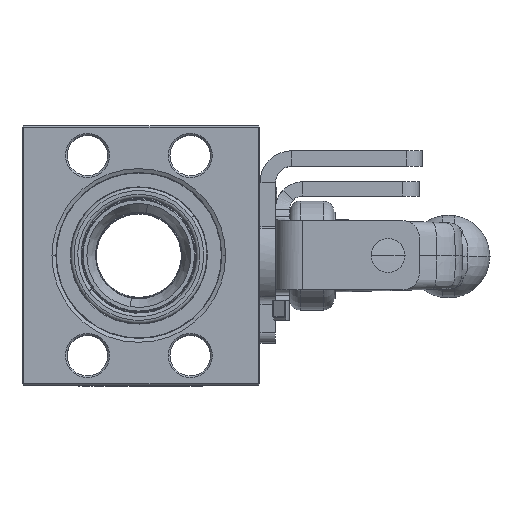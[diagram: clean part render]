
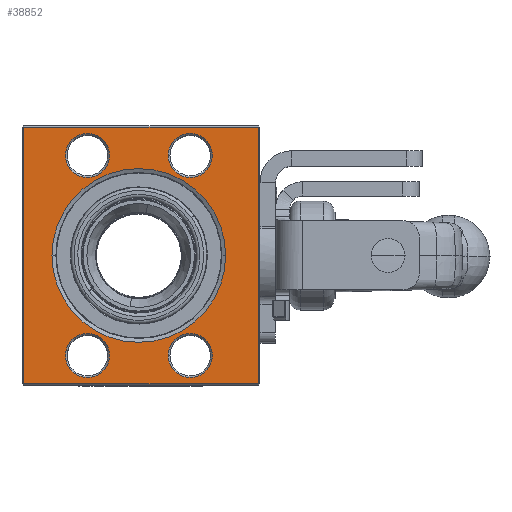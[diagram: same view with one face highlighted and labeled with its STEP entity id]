
A CAD part, top view. The second image highlights one B-rep face of the part: STEP entity #38852.
In plain terms, the highlighted planar face has unit normal (0, 0, 1).
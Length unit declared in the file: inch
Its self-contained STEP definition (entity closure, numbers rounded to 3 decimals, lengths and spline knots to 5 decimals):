
#669 = EDGE_CURVE ( 'NONE', #8229, #56967, #32773, .T. ) ;
#1232 = VERTEX_POINT ( 'NONE', #37631 ) ;
#1680 = CIRCLE ( 'NONE', #2654, 0.2545 ) ;
#1743 = EDGE_LOOP ( 'NONE', ( #22068, #56466 ) ) ;
#1781 = DIRECTION ( 'NONE',  ( 0., 0., -1. ) ) ;
#2160 = CARTESIAN_POINT ( 'NONE',  ( 0.07906, 1.44669, 3.4426 ) ) ;
#2654 = AXIS2_PLACEMENT_3D ( 'NONE', #20166, #15059, #33441 ) ;
#2889 = CARTESIAN_POINT ( 'NONE',  ( 0.48906, 2.60269, 3.4426 ) ) ;
#3225 = VERTEX_POINT ( 'NONE', #13688 ) ;
#3719 = VERTEX_POINT ( 'NONE', #37314 ) ;
#3782 = DIRECTION ( 'NONE',  ( 0., 0., -1. ) ) ;
#3791 = EDGE_CURVE ( 'NONE', #24090, #54291, #6082, .T. ) ;
#4087 = DIRECTION ( 'NONE',  ( -1., 0., 0. ) ) ;
#4178 = DIRECTION ( 'NONE',  ( -1., 0., 0. ) ) ;
#5705 = CARTESIAN_POINT ( 'NONE',  ( 0.74356, 2.60269, 3.4426 ) ) ;
#6082 = CIRCLE ( 'NONE', #39712, 0.2545 ) ;
#6396 = ORIENTED_EDGE ( 'NONE', *, *, #44175, .T. ) ;
#7078 = DIRECTION ( 'NONE',  ( 0., 0., -1. ) ) ;
#7106 = AXIS2_PLACEMENT_3D ( 'NONE', #2889, #3782, #21231 ) ;
#7937 = EDGE_CURVE ( 'NONE', #58377, #43856, #47119, .T. ) ;
#7997 = DIRECTION ( 'NONE',  ( 0., -1., 0. ) ) ;
#8229 = VERTEX_POINT ( 'NONE', #10184 ) ;
#8898 = DIRECTION ( 'NONE',  ( -1., 0., 0. ) ) ;
#10102 = CARTESIAN_POINT ( 'NONE',  ( 1.93156, 0.29069, 3.4426 ) ) ;
#10168 = VERTEX_POINT ( 'NONE', #5705 ) ;
#10184 = CARTESIAN_POINT ( 'NONE',  ( 2.08706, 1.44669, 3.4426 ) ) ;
#10526 = CARTESIAN_POINT ( 'NONE',  ( 1.67706, 0.29069, 3.4426 ) ) ;
#10557 = DIRECTION ( 'NONE',  ( 0., 1., 0. ) ) ;
#10579 = VERTEX_POINT ( 'NONE', #50494 ) ;
#11584 = DIRECTION ( 'NONE',  ( 0., 0., -1. ) ) ;
#11998 = AXIS2_PLACEMENT_3D ( 'NONE', #52531, #7078, #48301 ) ;
#12366 = VERTEX_POINT ( 'NONE', #50385 ) ;
#13077 = CARTESIAN_POINT ( 'NONE',  ( -0.24694, -0.05331, 3.4426 ) ) ;
#13688 = CARTESIAN_POINT ( 'NONE',  ( 1.93156, 2.60269, 3.4426 ) ) ;
#13929 = EDGE_LOOP ( 'NONE', ( #32806, #15264 ) ) ;
#14033 = VECTOR ( 'NONE', #45482, 39.37008 ) ;
#14735 = DIRECTION ( 'NONE',  ( 0., 0., -1. ) ) ;
#14843 = EDGE_CURVE ( 'NONE', #10168, #29716, #56135, .T. ) ;
#15059 = DIRECTION ( 'NONE',  ( 0., 0., -1. ) ) ;
#15264 = ORIENTED_EDGE ( 'NONE', *, *, #51941, .T. ) ;
#15497 = FACE_BOUND ( 'NONE', #48937, .T. ) ;
#15641 = ORIENTED_EDGE ( 'NONE', *, *, #41769, .T. ) ;
#15989 = ORIENTED_EDGE ( 'NONE', *, *, #14843, .T. ) ;
#17191 = CARTESIAN_POINT ( 'NONE',  ( -0.26694, -0.03331, 3.4426 ) ) ;
#18358 = DIRECTION ( 'NONE',  ( -1., 0., 0. ) ) ;
#18500 = LINE ( 'NONE', #41382, #48794 ) ;
#18967 = CARTESIAN_POINT ( 'NONE',  ( 2.46306, -0.03331, 3.4426 ) ) ;
#19573 = LINE ( 'NONE', #56319, #20660 ) ;
#19718 = FACE_BOUND ( 'NONE', #50298, .T. ) ;
#20105 = DIRECTION ( 'NONE',  ( -1., 0., 0. ) ) ;
#20166 = CARTESIAN_POINT ( 'NONE',  ( 1.67706, 2.60269, 3.4426 ) ) ;
#20660 = VECTOR ( 'NONE', #10557, 39.37008 ) ;
#20801 = CIRCLE ( 'NONE', #35221, 1.004 ) ;
#21231 = DIRECTION ( 'NONE',  ( -1., 0., 0. ) ) ;
#21507 = CARTESIAN_POINT ( 'NONE',  ( 1.08306, 1.44669, 3.4426 ) ) ;
#21678 = CARTESIAN_POINT ( 'NONE',  ( 0.23456, 0.29069, 3.4426 ) ) ;
#22068 = ORIENTED_EDGE ( 'NONE', *, *, #3791, .T. ) ;
#22123 = LINE ( 'NONE', #13077, #41918 ) ;
#22154 = AXIS2_PLACEMENT_3D ( 'NONE', #21507, #11584, #35367 ) ;
#22521 = EDGE_LOOP ( 'NONE', ( #6396, #49448 ) ) ;
#23171 = CARTESIAN_POINT ( 'NONE',  ( 0.48906, 0.29069, 3.4426 ) ) ;
#24090 = VERTEX_POINT ( 'NONE', #48531 ) ;
#24444 = ORIENTED_EDGE ( 'NONE', *, *, #669, .T. ) ;
#24544 = PLANE ( 'NONE',  #11998 ) ;
#25952 = CARTESIAN_POINT ( 'NONE',  ( 1.42256, 0.29069, 3.4426 ) ) ;
#28339 = DIRECTION ( 'NONE',  ( 0., 0., -1. ) ) ;
#28765 = FACE_BOUND ( 'NONE', #1743, .T. ) ;
#28895 = DIRECTION ( 'NONE',  ( -1., 0., 0. ) ) ;
#29270 = VERTEX_POINT ( 'NONE', #18967 ) ;
#29716 = VERTEX_POINT ( 'NONE', #48675 ) ;
#31877 = EDGE_CURVE ( 'NONE', #54291, #24090, #57902, .T. ) ;
#32773 = CIRCLE ( 'NONE', #22154, 1.004 ) ;
#32806 = ORIENTED_EDGE ( 'NONE', *, *, #7937, .T. ) ;
#33423 = CIRCLE ( 'NONE', #38233, 0.2545 ) ;
#33441 = DIRECTION ( 'NONE',  ( -1., 0., 0. ) ) ;
#33679 = CARTESIAN_POINT ( 'NONE',  ( 1.67706, 2.60269, 3.4426 ) ) ;
#35221 = AXIS2_PLACEMENT_3D ( 'NONE', #55146, #28339, #46691 ) ;
#35367 = DIRECTION ( 'NONE',  ( -1., 0., 0. ) ) ;
#35728 = ORIENTED_EDGE ( 'NONE', *, *, #37922, .T. ) ;
#36091 = ORIENTED_EDGE ( 'NONE', *, *, #54702, .T. ) ;
#37084 = CIRCLE ( 'NONE', #50540, 0.2545 ) ;
#37216 = CIRCLE ( 'NONE', #59345, 0.2545 ) ;
#37314 = CARTESIAN_POINT ( 'NONE',  ( -0.24694, 2.92669, 3.4426 ) ) ;
#37613 = DIRECTION ( 'NONE',  ( 0., 0., -1. ) ) ;
#37631 = CARTESIAN_POINT ( 'NONE',  ( -0.24694, -0.03331, 3.4426 ) ) ;
#37922 = EDGE_CURVE ( 'NONE', #3719, #1232, #22123, .T. ) ;
#38233 = AXIS2_PLACEMENT_3D ( 'NONE', #33679, #1781, #20105 ) ;
#38688 = FACE_OUTER_BOUND ( 'NONE', #49990, .T. ) ;
#38852 = ADVANCED_FACE ( 'NONE', ( #19718, #28765, #48006, #15497, #56161, #38688 ), #24544, .F. ) ;
#39712 = AXIS2_PLACEMENT_3D ( 'NONE', #23171, #37613, #18358 ) ;
#40574 = CARTESIAN_POINT ( 'NONE',  ( 0.48906, 2.60269, 3.4426 ) ) ;
#40590 = DIRECTION ( 'NONE',  ( 0., 0., -1. ) ) ;
#40677 = EDGE_CURVE ( 'NONE', #1232, #29270, #40967, .T. ) ;
#40967 = LINE ( 'NONE', #17191, #14033 ) ;
#41382 = CARTESIAN_POINT ( 'NONE',  ( -0.26694, 2.92669, 3.4426 ) ) ;
#41567 = AXIS2_PLACEMENT_3D ( 'NONE', #54956, #46499, #8898 ) ;
#41769 = EDGE_CURVE ( 'NONE', #56967, #8229, #20801, .T. ) ;
#41918 = VECTOR ( 'NONE', #7997, 39.37008 ) ;
#43024 = ORIENTED_EDGE ( 'NONE', *, *, #59445, .T. ) ;
#43856 = VERTEX_POINT ( 'NONE', #25952 ) ;
#44175 = EDGE_CURVE ( 'NONE', #3225, #12366, #1680, .T. ) ;
#44374 = AXIS2_PLACEMENT_3D ( 'NONE', #54144, #40590, #4178 ) ;
#45181 = EDGE_CURVE ( 'NONE', #12366, #3225, #33423, .T. ) ;
#45482 = DIRECTION ( 'NONE',  ( 1., 0., 0. ) ) ;
#46272 = DIRECTION ( 'NONE',  ( -1., 0., 0. ) ) ;
#46499 = DIRECTION ( 'NONE',  ( 0., 0., -1. ) ) ;
#46691 = DIRECTION ( 'NONE',  ( -1., 0., 0. ) ) ;
#47119 = CIRCLE ( 'NONE', #44374, 0.2545 ) ;
#48006 = FACE_BOUND ( 'NONE', #22521, .T. ) ;
#48301 = DIRECTION ( 'NONE',  ( -1., 0., 0. ) ) ;
#48531 = CARTESIAN_POINT ( 'NONE',  ( 0.74356, 0.29069, 3.4426 ) ) ;
#48675 = CARTESIAN_POINT ( 'NONE',  ( 0.23456, 2.60269, 3.4426 ) ) ;
#48794 = VECTOR ( 'NONE', #4087, 39.37008 ) ;
#48937 = EDGE_LOOP ( 'NONE', ( #15989, #36091 ) ) ;
#49448 = ORIENTED_EDGE ( 'NONE', *, *, #45181, .T. ) ;
#49990 = EDGE_LOOP ( 'NONE', ( #35728, #54439, #43024, #51401 ) ) ;
#50298 = EDGE_LOOP ( 'NONE', ( #24444, #15641 ) ) ;
#50385 = CARTESIAN_POINT ( 'NONE',  ( 1.42256, 2.60269, 3.4426 ) ) ;
#50494 = CARTESIAN_POINT ( 'NONE',  ( 2.46306, 2.92669, 3.4426 ) ) ;
#50540 = AXIS2_PLACEMENT_3D ( 'NONE', #10526, #14735, #28895 ) ;
#51401 = ORIENTED_EDGE ( 'NONE', *, *, #55038, .T. ) ;
#51941 = EDGE_CURVE ( 'NONE', #43856, #58377, #37084, .T. ) ;
#52531 = CARTESIAN_POINT ( 'NONE',  ( -0.26694, -0.05331, 3.4426 ) ) ;
#54144 = CARTESIAN_POINT ( 'NONE',  ( 1.67706, 0.29069, 3.4426 ) ) ;
#54291 = VERTEX_POINT ( 'NONE', #21678 ) ;
#54439 = ORIENTED_EDGE ( 'NONE', *, *, #40677, .T. ) ;
#54702 = EDGE_CURVE ( 'NONE', #29716, #10168, #37216, .T. ) ;
#54956 = CARTESIAN_POINT ( 'NONE',  ( 0.48906, 0.29069, 3.4426 ) ) ;
#55038 = EDGE_CURVE ( 'NONE', #10579, #3719, #18500, .T. ) ;
#55146 = CARTESIAN_POINT ( 'NONE',  ( 1.08306, 1.44669, 3.4426 ) ) ;
#56135 = CIRCLE ( 'NONE', #7106, 0.2545 ) ;
#56161 = FACE_BOUND ( 'NONE', #13929, .T. ) ;
#56319 = CARTESIAN_POINT ( 'NONE',  ( 2.46306, -0.05331, 3.4426 ) ) ;
#56466 = ORIENTED_EDGE ( 'NONE', *, *, #31877, .T. ) ;
#56967 = VERTEX_POINT ( 'NONE', #2160 ) ;
#57902 = CIRCLE ( 'NONE', #41567, 0.2545 ) ;
#58377 = VERTEX_POINT ( 'NONE', #10102 ) ;
#58948 = DIRECTION ( 'NONE',  ( 0., 0., -1. ) ) ;
#59345 = AXIS2_PLACEMENT_3D ( 'NONE', #40574, #58948, #46272 ) ;
#59445 = EDGE_CURVE ( 'NONE', #29270, #10579, #19573, .T. ) ;
